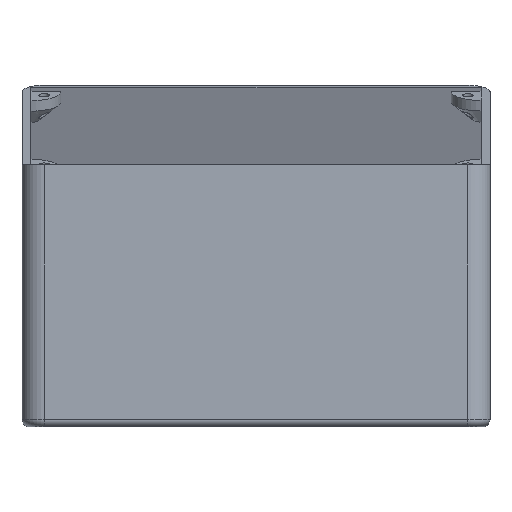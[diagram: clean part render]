
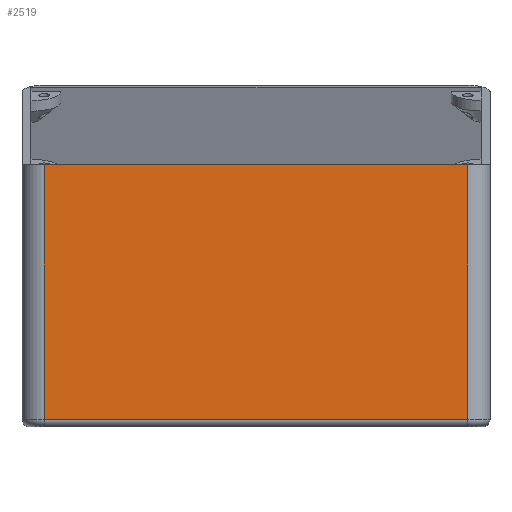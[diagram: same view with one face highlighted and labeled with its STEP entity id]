
A CAD part, front view. The second image highlights one B-rep face of the part: STEP entity #2519.
In plain terms, the highlighted planar face has unit normal (0, -1, 0).
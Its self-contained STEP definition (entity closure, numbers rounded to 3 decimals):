
#179=LINE('',#4211,#375);
#183=LINE('',#4224,#379);
#184=LINE('',#4226,#380);
#185=LINE('',#4227,#381);
#375=VECTOR('',#3261,10.);
#379=VECTOR('',#3277,10.);
#380=VECTOR('',#3278,10.);
#381=VECTOR('',#3279,10.);
#548=PLANE('',#2756);
#705=FACE_OUTER_BOUND('',#858,.T.);
#858=EDGE_LOOP('',(#1991,#1992,#1993,#1994));
#1242=VERTEX_POINT('',#4203);
#1244=VERTEX_POINT('',#4209);
#1247=VERTEX_POINT('',#4223);
#1248=VERTEX_POINT('',#4225);
#1538=EDGE_CURVE('',#1244,#1242,#179,.T.);
#1545=EDGE_CURVE('',#1247,#1244,#183,.T.);
#1546=EDGE_CURVE('',#1248,#1247,#184,.T.);
#1547=EDGE_CURVE('',#1242,#1248,#185,.T.);
#1991=ORIENTED_EDGE('',*,*,#1538,.F.);
#1992=ORIENTED_EDGE('',*,*,#1545,.F.);
#1993=ORIENTED_EDGE('',*,*,#1546,.F.);
#1994=ORIENTED_EDGE('',*,*,#1547,.F.);
#2519=ADVANCED_FACE('',(#705),#548,.T.);
#2756=AXIS2_PLACEMENT_3D('',#4222,#3275,#3276);
#3261=DIRECTION('',(-1.,0.,0.));
#3275=DIRECTION('center_axis',(0.,-1.,0.));
#3276=DIRECTION('ref_axis',(1.,0.,0.));
#3277=DIRECTION('',(0.,0.,-1.));
#3278=DIRECTION('',(1.,0.,0.));
#3279=DIRECTION('',(0.,0.,1.));
#4203=CARTESIAN_POINT('',(6.,0.,2.));
#4209=CARTESIAN_POINT('',(119.,0.,2.));
#4211=CARTESIAN_POINT('',(31.25,0.,2.));
#4222=CARTESIAN_POINT('Origin',(0.,0.,0.));
#4223=CARTESIAN_POINT('',(119.,0.,70.));
#4224=CARTESIAN_POINT('',(119.,0.,0.));
#4225=CARTESIAN_POINT('',(6.,0.,70.));
#4226=CARTESIAN_POINT('',(0.,0.,70.));
#4227=CARTESIAN_POINT('',(6.,0.,0.));
